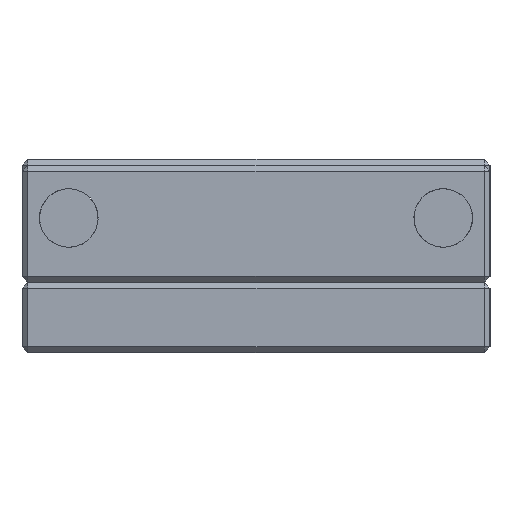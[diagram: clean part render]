
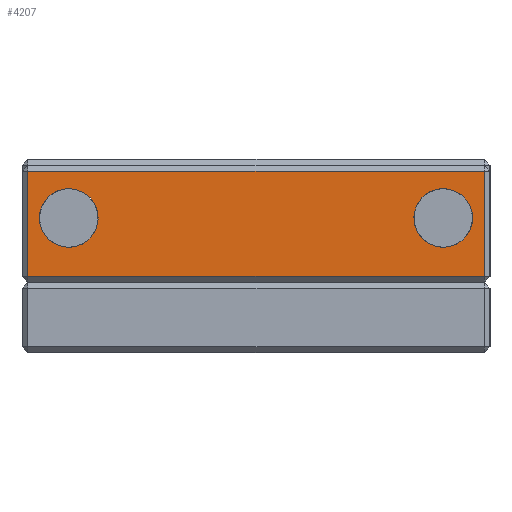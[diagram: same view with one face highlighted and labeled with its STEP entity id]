
A CAD part, left-side view. The second image highlights one B-rep face of the part: STEP entity #4207.
In plain terms, the highlighted planar face has unit normal (-1, 0, 0) as drawn and (1, 0, 0) by its records, which use the part's own axes.
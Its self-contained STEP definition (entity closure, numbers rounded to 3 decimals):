
#109 = CIRCLE ( 'NONE', #4734, 2.5 ) ;
#325 = DIRECTION ( 'NONE',  ( 0., 1., 0. ) ) ;
#401 = CIRCLE ( 'NONE', #25564, 2.5 ) ;
#527 = CARTESIAN_POINT ( 'NONE',  ( 7.5, -16., 5.5 ) ) ;
#1240 = CARTESIAN_POINT ( 'NONE',  ( 7.5, 16., 8. ) ) ;
#1435 = CARTESIAN_POINT ( 'NONE',  ( 7.5, -20., 10. ) ) ;
#1506 = VERTEX_POINT ( 'NONE', #22732 ) ;
#2229 = LINE ( 'NONE', #3232, #12702 ) ;
#2571 = DIRECTION ( 'NONE',  ( 0., 0., 1. ) ) ;
#2630 = CARTESIAN_POINT ( 'NONE',  ( 7.5, 16., 5.5 ) ) ;
#3232 = CARTESIAN_POINT ( 'NONE',  ( 7.5, 19.5, 10. ) ) ;
#3249 = AXIS2_PLACEMENT_3D ( 'NONE', #8257, #23069, #10403 ) ;
#3290 = VERTEX_POINT ( 'NONE', #1240 ) ;
#3407 = CARTESIAN_POINT ( 'NONE',  ( 7.5, 16., 3. ) ) ;
#4000 = CARTESIAN_POINT ( 'NONE',  ( 7.5, 19.5, 9.5 ) ) ;
#4207 = ADVANCED_FACE ( 'NONE', ( #8136, #8168, #8111 ), #20315, .F. ) ;
#4476 = VERTEX_POINT ( 'NONE', #7611 ) ;
#4678 = DIRECTION ( 'NONE',  ( 0., 0., 1. ) ) ;
#4734 = AXIS2_PLACEMENT_3D ( 'NONE', #527, #15117, #2571 ) ;
#5553 = DIRECTION ( 'NONE',  ( 0., 0., -1. ) ) ;
#5652 = DIRECTION ( 'NONE',  ( 0., -1., 0. ) ) ;
#6500 = DIRECTION ( 'NONE',  ( -1., 0., 0. ) ) ;
#6572 = VERTEX_POINT ( 'NONE', #24251 ) ;
#6724 = EDGE_CURVE ( 'NONE', #9832, #4476, #9496, .T. ) ;
#7611 = CARTESIAN_POINT ( 'NONE',  ( 7.5, -19.5, 9.5 ) ) ;
#8111 = FACE_BOUND ( 'NONE', #8854, .T. ) ;
#8136 = FACE_OUTER_BOUND ( 'NONE', #14831, .T. ) ;
#8168 = FACE_BOUND ( 'NONE', #17521, .T. ) ;
#8257 = CARTESIAN_POINT ( 'NONE',  ( 7.5, -16., 5.5 ) ) ;
#8398 = DIRECTION ( 'NONE',  ( 0., 0., 1. ) ) ;
#8854 = EDGE_LOOP ( 'NONE', ( #19015, #19391 ) ) ;
#9080 = EDGE_CURVE ( 'NONE', #24099, #3290, #401, .T. ) ;
#9496 = LINE ( 'NONE', #16264, #20108 ) ;
#9648 = CIRCLE ( 'NONE', #3249, 2.5 ) ;
#9801 = CARTESIAN_POINT ( 'NONE',  ( 7.5, -19.5, 10. ) ) ;
#9832 = VERTEX_POINT ( 'NONE', #4000 ) ;
#10403 = DIRECTION ( 'NONE',  ( 0., 0., 1. ) ) ;
#10999 = EDGE_CURVE ( 'NONE', #1506, #9832, #2229, .T. ) ;
#12702 = VECTOR ( 'NONE', #26273, 1000. ) ;
#12955 = EDGE_CURVE ( 'NONE', #22184, #13073, #9648, .T. ) ;
#13073 = VERTEX_POINT ( 'NONE', #19203 ) ;
#13317 = EDGE_CURVE ( 'NONE', #4476, #6572, #26737, .T. ) ;
#14326 = CARTESIAN_POINT ( 'NONE',  ( 7.5, -16., 8. ) ) ;
#14831 = EDGE_LOOP ( 'NONE', ( #15369, #15731, #16369, #17479 ) ) ;
#15117 = DIRECTION ( 'NONE',  ( -1., 0., 0. ) ) ;
#15369 = ORIENTED_EDGE ( 'NONE', *, *, #13317, .T. ) ;
#15731 = ORIENTED_EDGE ( 'NONE', *, *, #23764, .T. ) ;
#16264 = CARTESIAN_POINT ( 'NONE',  ( 7.5, -20., 9.5 ) ) ;
#16369 = ORIENTED_EDGE ( 'NONE', *, *, #10999, .T. ) ;
#17315 = DIRECTION ( 'NONE',  ( -1., 0., 0. ) ) ;
#17479 = ORIENTED_EDGE ( 'NONE', *, *, #6724, .T. ) ;
#17521 = EDGE_LOOP ( 'NONE', ( #18043, #18196 ) ) ;
#17595 = AXIS2_PLACEMENT_3D ( 'NONE', #1435, #21722, #8398 ) ;
#18043 = ORIENTED_EDGE ( 'NONE', *, *, #12955, .T. ) ;
#18196 = ORIENTED_EDGE ( 'NONE', *, *, #22755, .T. ) ;
#19015 = ORIENTED_EDGE ( 'NONE', *, *, #24793, .T. ) ;
#19203 = CARTESIAN_POINT ( 'NONE',  ( 7.5, -16., 3. ) ) ;
#19229 = CARTESIAN_POINT ( 'NONE',  ( 7.5, 16., 5.5 ) ) ;
#19391 = ORIENTED_EDGE ( 'NONE', *, *, #9080, .T. ) ;
#19406 = CIRCLE ( 'NONE', #24743, 2.5 ) ;
#19916 = VECTOR ( 'NONE', #5553, 1000. ) ;
#20108 = VECTOR ( 'NONE', #5652, 1000. ) ;
#20315 = PLANE ( 'NONE',  #17595 ) ;
#21064 = VECTOR ( 'NONE', #325, 1000. ) ;
#21354 = DIRECTION ( 'NONE',  ( 0., 0., 1. ) ) ;
#21722 = DIRECTION ( 'NONE',  ( -1., 0., 0. ) ) ;
#21742 = LINE ( 'NONE', #25402, #21064 ) ;
#22184 = VERTEX_POINT ( 'NONE', #14326 ) ;
#22732 = CARTESIAN_POINT ( 'NONE',  ( 7.5, 19.5, 0.5 ) ) ;
#22755 = EDGE_CURVE ( 'NONE', #13073, #22184, #109, .T. ) ;
#23069 = DIRECTION ( 'NONE',  ( -1., 0., 0. ) ) ;
#23764 = EDGE_CURVE ( 'NONE', #6572, #1506, #21742, .T. ) ;
#24099 = VERTEX_POINT ( 'NONE', #3407 ) ;
#24251 = CARTESIAN_POINT ( 'NONE',  ( 7.5, -19.5, 0.5 ) ) ;
#24743 = AXIS2_PLACEMENT_3D ( 'NONE', #19229, #6500, #21354 ) ;
#24793 = EDGE_CURVE ( 'NONE', #3290, #24099, #19406, .T. ) ;
#25402 = CARTESIAN_POINT ( 'NONE',  ( 7.5, 20., 0.5 ) ) ;
#25564 = AXIS2_PLACEMENT_3D ( 'NONE', #2630, #17315, #4678 ) ;
#26273 = DIRECTION ( 'NONE',  ( 0., 0., 1. ) ) ;
#26737 = LINE ( 'NONE', #9801, #19916 ) ;
